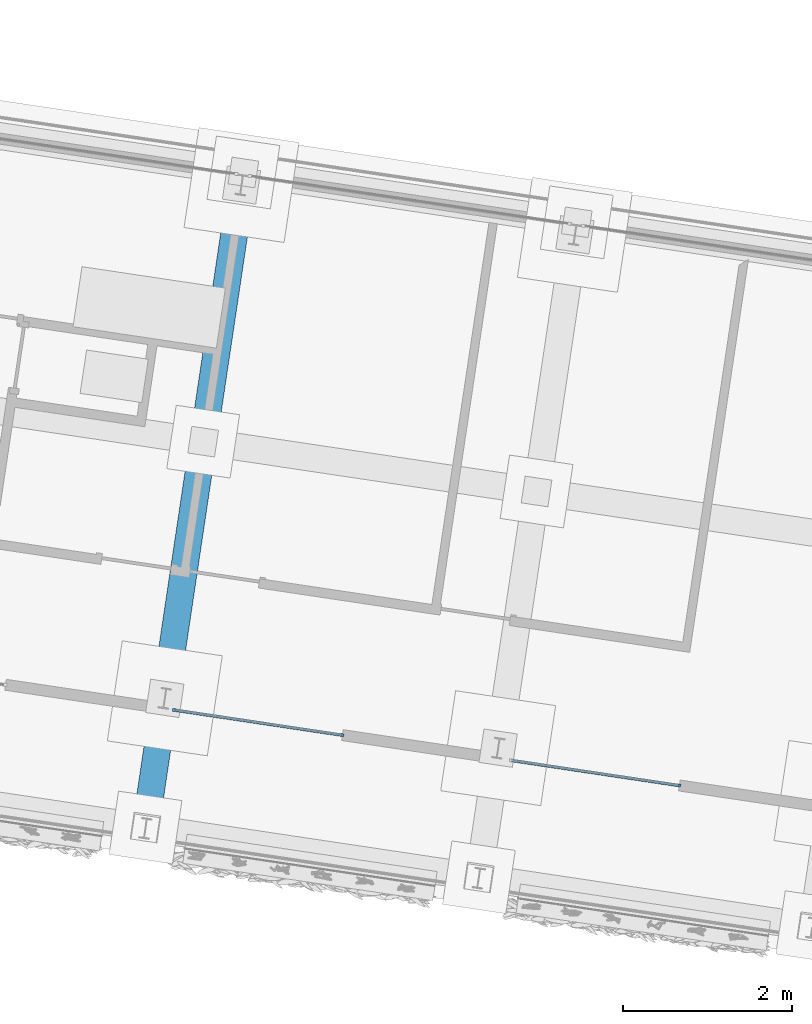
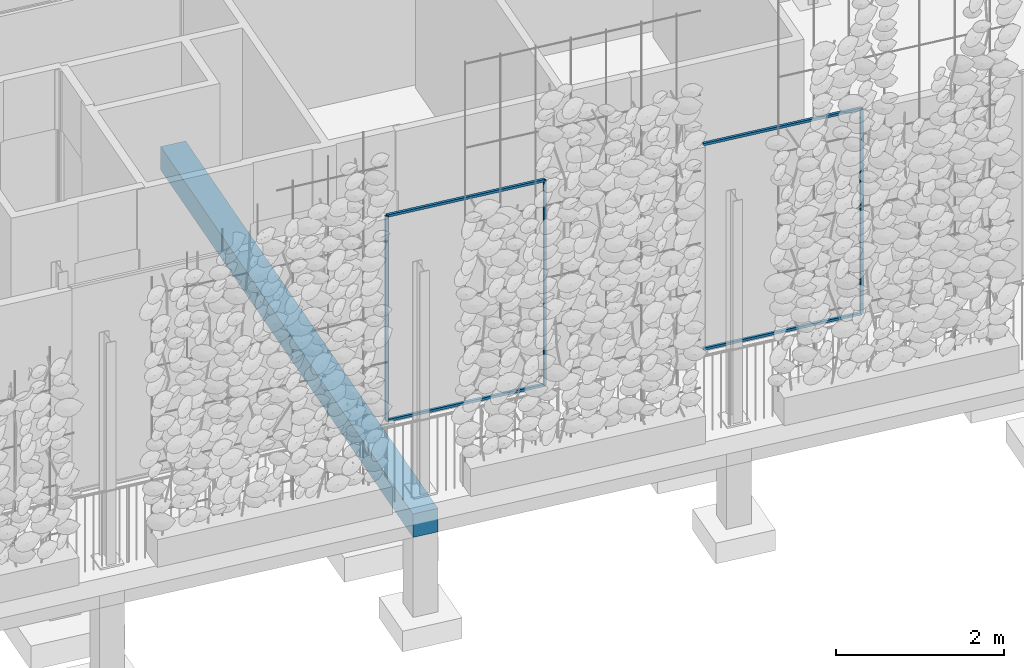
# One storey, part 81 of 142: 7 members, 1 beam, 1 element without a shape of its own.
"""IFC4 building model written with IfcOpenShell, lengths in metres."""

from ifc_helpers import new_model, si_unit, direction, frame, origin_with_axes, place, context, subcontext, project, spatial, polyline, rectangle, outline, extrude, material, material_profile, profile_set, profile_usage, type_object, element, aggregate, save


model = new_model("IFC4")

# Units and contexts
model_context = context("Model", 3, precision=1e-05, world=origin_with_axes(), true_north=direction((0.0, 1.0)))
body_context = subcontext(model_context, "Body", "Model", "MODEL_VIEW")
ifc_project = project(units=[si_unit("AREAUNIT", "SQUARE_METRE"), si_unit("VOLUMEUNIT", "CUBIC_METRE"), si_unit("LENGTHUNIT", "METRE")], contexts=[model_context])

# Site, building, storey
site_placement = place(None, origin_with_axes())
site = spatial("IfcSite", under=ifc_project, at=site_placement, Name="Lares · Rua das Mercês · artigo 4771")
building_placement = place(site_placement, frame((15.0, 9.7, 14.65), z_axis=(0.0, 0.0, 1.0), x_axis=(0.989015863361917, -0.147809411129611, 0.0)))
building = spatial("IfcBuilding", under=site, at=building_placement, Name="Casa Sobreposta")
storey_placement = place(building_placement, origin_with_axes())
storey = spatial("IfcBuildingStorey", under=building, at=storey_placement, Name="00 · Habitação e estacionamento", Elevation=14.65)

# Members
ifc_material_1 = material(Name="Aço pintado / Stahl lackiert", Category="steel")
ifc_material_profile = material_profile(ifc_material_1, rectangle(XDim=0.035, YDim=0.035))
ifc_profile_set = profile_set([ifc_material_profile], Name="R0.035")
ifc_profile_usage_1 = profile_usage(ifc_profile_set)
member_type = type_object("IfcMemberType", Name="R0.035 / steel", PredefinedType="NOTDEFINED", material=ifc_profile_set)
member_1_placement = place(storey_placement, frame((12.128, 0.0, 0.0), z_axis=(0.0, 0.0, 1.0), x_axis=(1.0, 0.0, 0.0)))
element("IfcMember", 1, at=member_1_placement, inside=storey, type_object=member_type, material=ifc_profile_usage_1, Name="Folha de correr sul 6 · montante", context=body_context, shape_type="SweptSolid", body=[
    extrude(rectangle(XDim=0.035, YDim=0.035), origin_with_axes(), (0.0, 0.0, 1.0), 2.968),
])
ifc_profile_usage_2 = profile_usage(ifc_profile_set)
member_2_placement = place(storey_placement, frame((14.1493333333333, 0.0, 0.0), z_axis=(0.0, 0.0, 1.0), x_axis=(1.0, 0.0, 0.0)))
element("IfcMember", 2, at=member_2_placement, inside=storey, type_object=member_type, material=ifc_profile_usage_2, Name="Folha de correr sul 6 · montante", context=body_context, shape_type="SweptSolid", body=[
    extrude(rectangle(XDim=0.035, YDim=0.035), origin_with_axes(), (0.0, 0.0, 1.0), 2.968),
])
ifc_profile_usage_3 = profile_usage(ifc_profile_set)
member_3_placement = place(storey_placement, frame((12.128, 0.0, 0.0), z_axis=(1.0, 0.0, 0.0), x_axis=(0.0, -1.0, 0.0)))
element("IfcMember", 3, at=member_3_placement, inside=storey, type_object=member_type, material=ifc_profile_usage_3, Name="Folha de correr sul 6 · travessa", context=body_context, shape_type="SweptSolid", body=[
    extrude(rectangle(XDim=0.035, YDim=0.035), origin_with_axes(), (0.0, 0.0, 1.0), 2.02133333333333),
])
ifc_profile_usage_4 = profile_usage(ifc_profile_set)
member_4_placement = place(storey_placement, frame((12.128, 0.0, 2.968), z_axis=(1.0, 0.0, 0.0), x_axis=(0.0, -1.0, 0.0)))
element("IfcMember", 4, at=member_4_placement, inside=storey, type_object=member_type, material=ifc_profile_usage_4, Name="Folha de correr sul 6 · travessa", context=body_context, shape_type="SweptSolid", body=[
    extrude(rectangle(XDim=0.035, YDim=0.035), origin_with_axes(), (0.0, 0.0, 1.0), 2.02133333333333),
])
ifc_profile_usage_5 = profile_usage(ifc_profile_set)
member_5_placement = place(storey_placement, frame((18.192, 0.0, 0.0), z_axis=(0.0, 0.0, 1.0), x_axis=(1.0, 0.0, 0.0)))
element("IfcMember", 5, at=member_5_placement, inside=storey, type_object=member_type, material=ifc_profile_usage_5, Name="Folha de correr sul 8 · montante", context=body_context, shape_type="SweptSolid", body=[
    extrude(rectangle(XDim=0.035, YDim=0.035), origin_with_axes(), (0.0, 0.0, 1.0), 2.968),
])
ifc_profile_usage_6 = profile_usage(ifc_profile_set)
member_6_placement = place(storey_placement, frame((16.1706666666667, 0.0, 0.0), z_axis=(1.0, 0.0, 0.0), x_axis=(0.0, -1.0, 0.0)))
element("IfcMember", 6, at=member_6_placement, inside=storey, type_object=member_type, material=ifc_profile_usage_6, Name="Folha de correr sul 8 · travessa", context=body_context, shape_type="SweptSolid", body=[
    extrude(rectangle(XDim=0.035, YDim=0.035), origin_with_axes(), (0.0, 0.0, 1.0), 2.02133333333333),
])
ifc_profile_usage_7 = profile_usage(ifc_profile_set)
member_7_placement = place(storey_placement, frame((16.1706666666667, 0.0, 2.968), z_axis=(1.0, 0.0, 0.0), x_axis=(0.0, -1.0, 0.0)))
element("IfcMember", 7, at=member_7_placement, inside=storey, type_object=member_type, material=ifc_profile_usage_7, Name="Folha de correr sul 8 · travessa", context=body_context, shape_type="SweptSolid", body=[
    extrude(rectangle(XDim=0.035, YDim=0.035), origin_with_axes(), (0.0, 0.0, 1.0), 2.02133333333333),
])

# Assembly, beam
assembly_placement = place(storey_placement, origin_with_axes())
assembly = element("IfcElementAssembly", 8, at=assembly_placement, inside=storey, Name="Pódio · terraço, casa térrea e cisterna", ObjectType="CISTERN_PODIUM", PredefinedType="USERDEFINED")
ifc_material_2 = material(Name="Betão armado / Stahlbeton", Category="concrete")
beam_placement = place(assembly_placement, frame((0.0, 0.0, -0.59), z_axis=(0.0, 0.0, 1.0), x_axis=(1.0, 0.0, 0.0)))
beam = element("IfcBeam", 9, at=beam_placement, material=ifc_material_2, Name="Pódio suspenso · viga transversal", context=body_context, shape_type="SweptSolid", body=[
    extrude(outline(polyline([(12.16, -1.59), (12.16, 6.59), (11.84, 6.59), (11.84, -1.59), (12.16, -1.59)])), origin_with_axes(), (0.0, 0.0, 1.0), 0.34),
])
aggregate(assembly, [beam])

save(model, "model.ifc")
